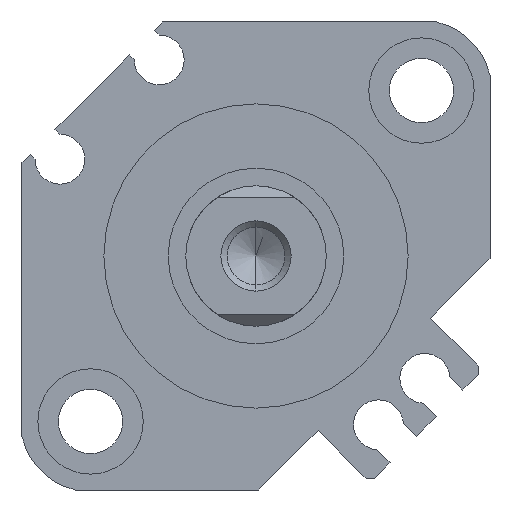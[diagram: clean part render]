
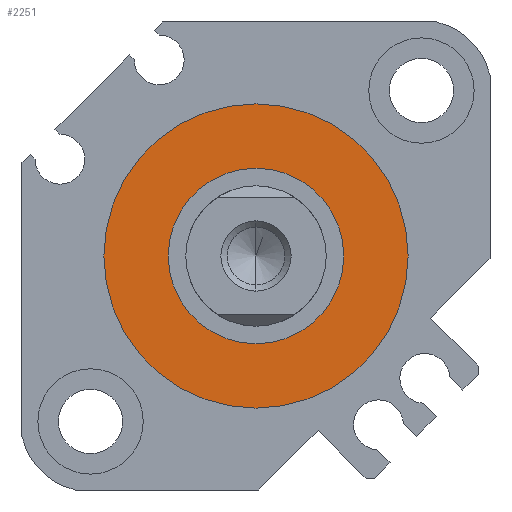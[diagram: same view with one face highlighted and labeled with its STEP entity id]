
A CAD part, left-side view. The second image highlights one B-rep face of the part: STEP entity #2251.
In plain terms, the highlighted planar face has unit normal (-1, 0, 0).
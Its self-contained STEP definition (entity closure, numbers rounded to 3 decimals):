
#128 = CIRCLE ( 'NONE', #1455, 7.5 ) ;
#148 = DIRECTION ( 'NONE',  ( 1., 0., 0. ) ) ;
#164 = CARTESIAN_POINT ( 'NONE',  ( 1.9, 0., 0. ) ) ;
#166 = EDGE_CURVE ( 'NONE', #1959, #2371, #3391, .T. ) ;
#306 = DIRECTION ( 'NONE',  ( 0., 0., -1. ) ) ;
#428 = AXIS2_PLACEMENT_3D ( 'NONE', #1501, #148, #2277 ) ;
#463 = FACE_BOUND ( 'NONE', #1358, .T. ) ;
#809 = CARTESIAN_POINT ( 'NONE',  ( 1.9, 0., 0. ) ) ;
#840 = DIRECTION ( 'NONE',  ( 0., 0., -1. ) ) ;
#845 = ORIENTED_EDGE ( 'NONE', *, *, #2001, .T. ) ;
#873 = CARTESIAN_POINT ( 'NONE',  ( 1.9, 0., -7.5 ) ) ;
#894 = VERTEX_POINT ( 'NONE', #1421 ) ;
#933 = ORIENTED_EDGE ( 'NONE', *, *, #3244, .T. ) ;
#1081 = EDGE_CURVE ( 'NONE', #2371, #1959, #2029, .T. ) ;
#1358 = EDGE_LOOP ( 'NONE', ( #845, #933 ) ) ;
#1421 = CARTESIAN_POINT ( 'NONE',  ( 1.9, 0., 7.5 ) ) ;
#1455 = AXIS2_PLACEMENT_3D ( 'NONE', #164, #2229, #3273 ) ;
#1501 = CARTESIAN_POINT ( 'NONE',  ( 1.9, 0., 0. ) ) ;
#1586 = DIRECTION ( 'NONE',  ( 1., 0., 0. ) ) ;
#1689 = CARTESIAN_POINT ( 'NONE',  ( 1.9, 0., 13. ) ) ;
#1778 = PLANE ( 'NONE',  #2431 ) ;
#1895 = AXIS2_PLACEMENT_3D ( 'NONE', #809, #3230, #840 ) ;
#1959 = VERTEX_POINT ( 'NONE', #3196 ) ;
#2001 = EDGE_CURVE ( 'NONE', #894, #2294, #2853, .T. ) ;
#2029 = CIRCLE ( 'NONE', #428, 13. ) ;
#2033 = CARTESIAN_POINT ( 'NONE',  ( 1.9, 0., 0. ) ) ;
#2099 = ORIENTED_EDGE ( 'NONE', *, *, #166, .F. ) ;
#2229 = DIRECTION ( 'NONE',  ( 1., 0., 0. ) ) ;
#2251 = ADVANCED_FACE ( 'NONE', ( #3090, #463 ), #1778, .F. ) ;
#2277 = DIRECTION ( 'NONE',  ( 0., 0., -1. ) ) ;
#2294 = VERTEX_POINT ( 'NONE', #873 ) ;
#2301 = AXIS2_PLACEMENT_3D ( 'NONE', #2669, #1586, #306 ) ;
#2371 = VERTEX_POINT ( 'NONE', #1689 ) ;
#2431 = AXIS2_PLACEMENT_3D ( 'NONE', #2033, #2705, #2500 ) ;
#2500 = DIRECTION ( 'NONE',  ( 0., 1., 0. ) ) ;
#2669 = CARTESIAN_POINT ( 'NONE',  ( 1.9, 0., 0. ) ) ;
#2705 = DIRECTION ( 'NONE',  ( 1., 0., 0. ) ) ;
#2788 = ORIENTED_EDGE ( 'NONE', *, *, #1081, .F. ) ;
#2853 = CIRCLE ( 'NONE', #2301, 7.5 ) ;
#3078 = EDGE_LOOP ( 'NONE', ( #2788, #2099 ) ) ;
#3090 = FACE_OUTER_BOUND ( 'NONE', #3078, .T. ) ;
#3196 = CARTESIAN_POINT ( 'NONE',  ( 1.9, 0., -13. ) ) ;
#3230 = DIRECTION ( 'NONE',  ( 1., 0., 0. ) ) ;
#3244 = EDGE_CURVE ( 'NONE', #2294, #894, #128, .T. ) ;
#3273 = DIRECTION ( 'NONE',  ( 0., 0., -1. ) ) ;
#3391 = CIRCLE ( 'NONE', #1895, 13. ) ;
